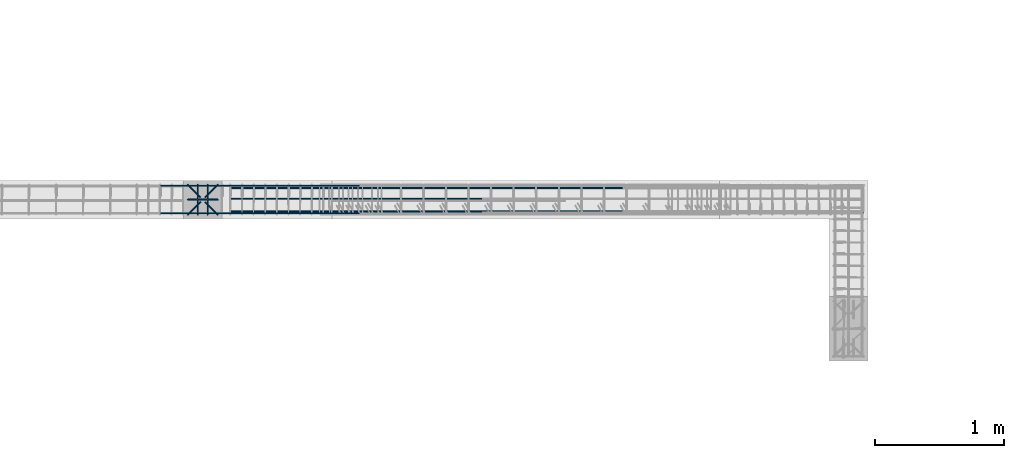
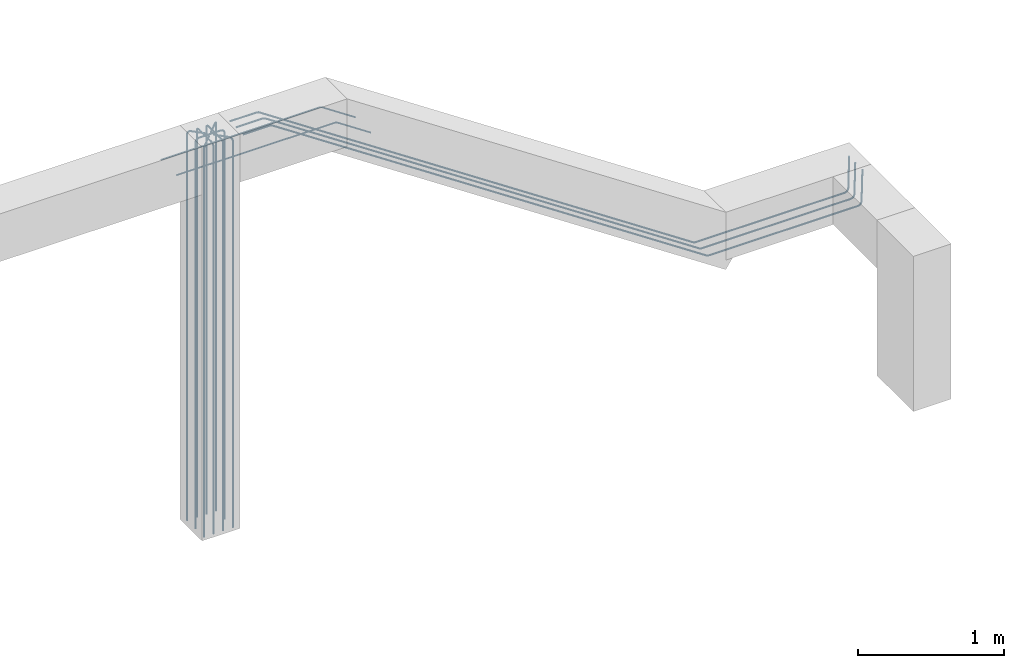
# One storey, part 15 of 24: 3 reinforcing bars.
"""IFC2X3 building model written with IfcOpenShell, lengths in metres."""

from ifc_helpers import new_model, entity, si_unit, direction, frame, origin, place, context, subcontext, project, spatial, shape, source, transform, mapped, element, save


model = new_model("IFC2X3")

# Units and contexts
model_context = context("Model", 3, precision=0.0, world=origin(), true_north=direction((0.0, 1.0)))
plan_context = context("Plan", 3, precision=0.0, world=origin(), true_north=direction((0.0, 1.0)))
body_context = subcontext(model_context, "Body", "Model", "MODEL_VIEW", scale=1.0)
ifc_project = project(units=[si_unit("LENGTHUNIT", "METRE"), si_unit("AREAUNIT", "SQUARE_METRE"), si_unit("VOLUMEUNIT", "CUBIC_METRE"), si_unit("PLANEANGLEUNIT", "RADIAN"), si_unit("THERMODYNAMICTEMPERATUREUNIT", "DEGREE_CELSIUS"), si_unit("FORCEUNIT", "NEWTON"), si_unit("MASSUNIT", "GRAM", prefix="KILO")], contexts=[model_context, plan_context])

# Site, building, storey
placement = place(None, origin())
site = spatial("IfcSite", under=ifc_project, at=placement, Name="Default Site", CompositionType="ELEMENT")
building = spatial("IfcBuilding", under=site, at=placement, Name="Default Building", CompositionType="ELEMENT")
storey_placement = place(placement, frame((0.0, 0.0, 3.3), z_axis=(1.0, 0.0, 0.0), x_axis=(0.0, 0.0, 1.0)))
storey = spatial("IfcBuildingStorey", under=building, at=storey_placement, Name="Piano 2", CompositionType="ELEMENT", Elevation=3.3)

# Reinforcing bars
shared_shape_1 = source(origin(), body_context, None, "AdvancedSweptSolid", [
    entity("IfcSweptDiskSolid", entity("IfcCompositeCurve", [entity("IfcCompositeCurveSegment", "CONTINUOUS", True, entity("IfcPolyline", [entity("IfcCartesianPoint", [0.0, 0.0, 0.0]), entity("IfcCartesianPoint", [0.213478, 0.0, 0.0]), entity("IfcCartesianPoint", [0.22901, 0.0, -0.004703]), entity("IfcCartesianPoint", [0.677956, 0.0, -0.304]), entity("IfcCartesianPoint", [3.670902, 0.0, -2.299297]), entity("IfcCartesianPoint", [3.686434, 0.0, -2.304]), entity("IfcCartesianPoint", [4.869442, 0.0, -2.304]), entity("IfcCartesianPoint", [4.883442, -0.000169, -2.300253]), entity("IfcCartesianPoint", [4.89369, -0.000632, -2.290014]), entity("IfcCartesianPoint", [4.897442, -0.001263, -2.276029]), entity("IfcCartesianPoint", [4.897442, -0.013729, -2.0])]))], False), 0.007, 0.0, 0.0),
])
shared_shape_2 = source(origin(), body_context, None, "MappedRepresentation", [mapped(shared_shape_1, transform((12.210676, 4.909, 3.243176)))])
shared_shape_3 = source(origin(), body_context, None, "AdvancedSweptSolid", [
    entity("IfcSweptDiskSolid", entity("IfcCompositeCurve", [entity("IfcCompositeCurveSegment", "CONTINUOUS", True, entity("IfcPolyline", [entity("IfcCartesianPoint", [0.0, 0.0, 0.0]), entity("IfcCartesianPoint", [0.213478, 0.0, 0.0]), entity("IfcCartesianPoint", [0.22901, 0.0, -0.004703]), entity("IfcCartesianPoint", [0.677956, 0.0, -0.304]), entity("IfcCartesianPoint", [3.670902, 0.0, -2.299297]), entity("IfcCartesianPoint", [3.686434, 0.0, -2.304]), entity("IfcCartesianPoint", [4.869442, 0.0, -2.304]), entity("IfcCartesianPoint", [4.883442, -0.000169, -2.300253]), entity("IfcCartesianPoint", [4.89369, -0.000632, -2.290014]), entity("IfcCartesianPoint", [4.897442, -0.001263, -2.276029]), entity("IfcCartesianPoint", [4.897442, -0.013729, -2.0])]))], False), 0.007, 0.0, 0.0),
])
shared_shape_4 = source(origin(), body_context, None, "MappedRepresentation", [mapped(shared_shape_3, transform((12.210676, 5.007, 3.243176)))])
shared_shape_5 = source(origin(), body_context, None, "AdvancedSweptSolid", [
    entity("IfcSweptDiskSolid", entity("IfcCompositeCurve", [entity("IfcCompositeCurveSegment", "CONTINUOUS", True, entity("IfcPolyline", [entity("IfcCartesianPoint", [0.0, 0.0, 0.0]), entity("IfcCartesianPoint", [0.213478, 0.0, 0.0]), entity("IfcCartesianPoint", [0.22901, 0.0, -0.004703]), entity("IfcCartesianPoint", [0.677956, 0.0, -0.304]), entity("IfcCartesianPoint", [3.670902, 0.0, -2.299297]), entity("IfcCartesianPoint", [3.686434, 0.0, -2.304]), entity("IfcCartesianPoint", [4.869442, 0.0, -2.304]), entity("IfcCartesianPoint", [4.883442, -0.000169, -2.300253]), entity("IfcCartesianPoint", [4.89369, -0.000632, -2.290014]), entity("IfcCartesianPoint", [4.897442, -0.001263, -2.276029]), entity("IfcCartesianPoint", [4.897442, -0.013729, -2.0])]))], False), 0.007, 0.0, 0.0),
])
shared_shape_6 = source(origin(), body_context, None, "MappedRepresentation", [mapped(shared_shape_5, transform((12.210676, 5.091, 3.243176)))])
element("IfcReinforcingBar", 1, at=placement, inside=storey, Name="Arm Inferiore; Trave:10 [Piano:2]", BarLength=17.684066, BarRole="MAIN", BarSurface="TEXTURED", NominalDiameter=0.014, shapes=[
    shape(body_context, None, "MappedRepresentation", [mapped(shared_shape_2, transform((0.0, 0.0, 0.0))), mapped(shared_shape_4, transform((0.0, 0.0, 0.0))), mapped(shared_shape_6, transform((0.0, 0.0, 0.0)))]),
])
shared_shape_7 = source(origin(), body_context, None, "AdvancedSweptSolid", [
    entity("IfcSweptDiskSolid", entity("IfcCompositeCurve", [entity("IfcCompositeCurveSegment", "CONTINUOUS", True, entity("IfcPolyline", [entity("IfcCartesianPoint", [0.0, 0.0, 0.0]), entity("IfcCartesianPoint", [0.326909, 0.0, 0.0]), entity("IfcCartesianPoint", [1.259087, 0.0, 0.0]), entity("IfcCartesianPoint", [1.2724, 0.0, -0.004031]), entity("IfcCartesianPoint", [1.538358, 0.0, -0.181336])]))], False), 0.006, 0.0, 0.0),
])
shared_shape_8 = source(origin(), body_context, None, "MappedRepresentation", [mapped(shared_shape_7, transform((11.673091, 5.106, 3.099)))])
shared_shape_9 = source(origin(), body_context, None, "AdvancedSweptSolid", [
    entity("IfcSweptDiskSolid", entity("IfcCompositeCurve", [entity("IfcCompositeCurveSegment", "CONTINUOUS", True, entity("IfcPolyline", [entity("IfcCartesianPoint", [0.0, 0.0, 0.0]), entity("IfcCartesianPoint", [0.326909, 0.0, 0.0]), entity("IfcCartesianPoint", [1.259087, 0.0, 0.0]), entity("IfcCartesianPoint", [1.2724, 0.0, -0.004031]), entity("IfcCartesianPoint", [1.538358, 0.0, -0.181336])]))], False), 0.006, 0.0, 0.0),
])
shared_shape_10 = source(origin(), body_context, None, "MappedRepresentation", [mapped(shared_shape_9, transform((11.673091, 4.894, 3.099)))])
element("IfcReinforcingBar", 2, at=placement, inside=storey, Name="Arm Generica; Trave:8 [Piano:2]", BarLength=3.185901, BarRole="NOTDEFINED", BarSurface="TEXTURED", NominalDiameter=0.012, shapes=[
    shape(body_context, None, "MappedRepresentation", [mapped(shared_shape_8, transform((0.0, 0.0, 0.0))), mapped(shared_shape_10, transform((0.0, 0.0, 0.0)))]),
])
shared_shape_11 = source(origin(), body_context, None, "AdvancedSweptSolid", [
    entity("IfcSweptDiskSolid", entity("IfcCompositeCurve", [entity("IfcCompositeCurveSegment", "CONTINUOUS", True, entity("IfcPolyline", [entity("IfcCartesianPoint", [0.0, 0.0, 0.0]), entity("IfcCartesianPoint", [0.0, 0.0, 3.237]), entity("IfcCartesianPoint", [0.002653, 0.002653, 3.251]), entity("IfcCartesianPoint", [0.009899, 0.009899, 3.261249]), entity("IfcCartesianPoint", [0.019799, 0.019799, 3.265]), entity("IfcCartesianPoint", [0.098995, 0.098995, 3.265])]))], False), 0.007, 0.0, 0.0),
])
shared_shape_12 = source(origin(), body_context, None, "MappedRepresentation", [mapped(shared_shape_11, transform((11.885, 4.885, 0.0)))])
shared_shape_13 = source(origin(), body_context, None, "AdvancedSweptSolid", [
    entity("IfcSweptDiskSolid", entity("IfcCompositeCurve", [entity("IfcCompositeCurveSegment", "CONTINUOUS", True, entity("IfcPolyline", [entity("IfcCartesianPoint", [0.0, 0.0, 0.0]), entity("IfcCartesianPoint", [0.0, 0.0, 3.237]), entity("IfcCartesianPoint", [-0.002653, 0.002653, 3.251]), entity("IfcCartesianPoint", [-0.009899, 0.009899, 3.261249]), entity("IfcCartesianPoint", [-0.019799, 0.019799, 3.265]), entity("IfcCartesianPoint", [-0.098995, 0.098995, 3.265])]))], False), 0.007, 0.0, 0.0),
])
shared_shape_14 = source(origin(), body_context, None, "MappedRepresentation", [mapped(shared_shape_13, transform((12.115, 4.885, 0.0)))])
shared_shape_15 = source(origin(), body_context, None, "AdvancedSweptSolid", [
    entity("IfcSweptDiskSolid", entity("IfcCompositeCurve", [entity("IfcCompositeCurveSegment", "CONTINUOUS", True, entity("IfcPolyline", [entity("IfcCartesianPoint", [0.0, 0.0, 0.0]), entity("IfcCartesianPoint", [0.0, 0.0, 3.237]), entity("IfcCartesianPoint", [-0.002653, -0.002653, 3.251]), entity("IfcCartesianPoint", [-0.009899, -0.009899, 3.261249]), entity("IfcCartesianPoint", [-0.019799, -0.019799, 3.265]), entity("IfcCartesianPoint", [-0.098995, -0.098995, 3.265])]))], False), 0.007, 0.0, 0.0),
])
shared_shape_16 = source(origin(), body_context, None, "MappedRepresentation", [mapped(shared_shape_15, transform((12.115, 5.115, 0.0)))])
shared_shape_17 = source(origin(), body_context, None, "AdvancedSweptSolid", [
    entity("IfcSweptDiskSolid", entity("IfcCompositeCurve", [entity("IfcCompositeCurveSegment", "CONTINUOUS", True, entity("IfcPolyline", [entity("IfcCartesianPoint", [0.0, 0.0, 0.0]), entity("IfcCartesianPoint", [0.0, 0.0, 3.237]), entity("IfcCartesianPoint", [0.002653, -0.002653, 3.251]), entity("IfcCartesianPoint", [0.009899, -0.009899, 3.261249]), entity("IfcCartesianPoint", [0.019799, -0.019799, 3.265]), entity("IfcCartesianPoint", [0.098995, -0.098995, 3.265])]))], False), 0.007, 0.0, 0.0),
])
shared_shape_18 = source(origin(), body_context, None, "MappedRepresentation", [mapped(shared_shape_17, transform((11.885, 5.115, 0.0)))])
shared_shape_19 = source(origin(), body_context, None, "AdvancedSweptSolid", [
    entity("IfcSweptDiskSolid", entity("IfcCompositeCurve", [entity("IfcCompositeCurveSegment", "CONTINUOUS", True, entity("IfcPolyline", [entity("IfcCartesianPoint", [0.0, 0.0, 0.0]), entity("IfcCartesianPoint", [0.0, 0.0, 3.237]), entity("IfcCartesianPoint", [0.0, 0.003751, 3.251]), entity("IfcCartesianPoint", [0.0, 0.014, 3.261249]), entity("IfcCartesianPoint", [0.0, 0.028, 3.265]), entity("IfcCartesianPoint", [0.0, 0.14, 3.265])]))], False), 0.007, 0.0, 0.0),
])
shared_shape_20 = source(origin(), body_context, None, "MappedRepresentation", [mapped(shared_shape_19, transform((11.961667, 4.885, 0.0)))])
shared_shape_21 = source(origin(), body_context, None, "AdvancedSweptSolid", [
    entity("IfcSweptDiskSolid", entity("IfcCompositeCurve", [entity("IfcCompositeCurveSegment", "CONTINUOUS", True, entity("IfcPolyline", [entity("IfcCartesianPoint", [0.0, 0.0, 0.0]), entity("IfcCartesianPoint", [0.0, 0.0, 3.237]), entity("IfcCartesianPoint", [0.0, 0.003751, 3.251]), entity("IfcCartesianPoint", [0.0, 0.014, 3.261249]), entity("IfcCartesianPoint", [0.0, 0.028, 3.265]), entity("IfcCartesianPoint", [0.0, 0.14, 3.265])]))], False), 0.007, 0.0, 0.0),
])
shared_shape_22 = source(origin(), body_context, None, "MappedRepresentation", [mapped(shared_shape_21, transform((12.038333, 4.885, 0.0)))])
shared_shape_23 = source(origin(), body_context, None, "AdvancedSweptSolid", [
    entity("IfcSweptDiskSolid", entity("IfcCompositeCurve", [entity("IfcCompositeCurveSegment", "CONTINUOUS", True, entity("IfcPolyline", [entity("IfcCartesianPoint", [0.0, 0.0, 0.0]), entity("IfcCartesianPoint", [0.0, 0.0, 3.237]), entity("IfcCartesianPoint", [-0.003751, 0.0, 3.251]), entity("IfcCartesianPoint", [-0.014, 0.0, 3.261249]), entity("IfcCartesianPoint", [-0.028, 0.0, 3.265]), entity("IfcCartesianPoint", [-0.14, 0.0, 3.265])]))], False), 0.007, 0.0, 0.0),
])
shared_shape_24 = source(origin(), body_context, None, "MappedRepresentation", [mapped(shared_shape_23, transform((12.115, 5.0, 0.0)))])
shared_shape_25 = source(origin(), body_context, None, "AdvancedSweptSolid", [
    entity("IfcSweptDiskSolid", entity("IfcCompositeCurve", [entity("IfcCompositeCurveSegment", "CONTINUOUS", True, entity("IfcPolyline", [entity("IfcCartesianPoint", [0.0, 0.0, 0.0]), entity("IfcCartesianPoint", [0.0, 0.0, 3.237]), entity("IfcCartesianPoint", [0.0, -0.003751, 3.251]), entity("IfcCartesianPoint", [0.0, -0.014, 3.261249]), entity("IfcCartesianPoint", [0.0, -0.028, 3.265]), entity("IfcCartesianPoint", [0.0, -0.14, 3.265])]))], False), 0.007, 0.0, 0.0),
])
shared_shape_26 = source(origin(), body_context, None, "MappedRepresentation", [mapped(shared_shape_25, transform((12.038333, 5.115, 0.0)))])
shared_shape_27 = source(origin(), body_context, None, "AdvancedSweptSolid", [
    entity("IfcSweptDiskSolid", entity("IfcCompositeCurve", [entity("IfcCompositeCurveSegment", "CONTINUOUS", True, entity("IfcPolyline", [entity("IfcCartesianPoint", [0.0, 0.0, 0.0]), entity("IfcCartesianPoint", [0.0, 0.0, 3.237]), entity("IfcCartesianPoint", [0.0, -0.003751, 3.251]), entity("IfcCartesianPoint", [0.0, -0.014, 3.261249]), entity("IfcCartesianPoint", [0.0, -0.028, 3.265]), entity("IfcCartesianPoint", [0.0, -0.14, 3.265])]))], False), 0.007, 0.0, 0.0),
])
shared_shape_28 = source(origin(), body_context, None, "MappedRepresentation", [mapped(shared_shape_27, transform((11.961667, 5.115, 0.0)))])
shared_shape_29 = source(origin(), body_context, None, "AdvancedSweptSolid", [
    entity("IfcSweptDiskSolid", entity("IfcCompositeCurve", [entity("IfcCompositeCurveSegment", "CONTINUOUS", True, entity("IfcPolyline", [entity("IfcCartesianPoint", [0.0, 0.0, 0.0]), entity("IfcCartesianPoint", [0.0, 0.0, 3.237]), entity("IfcCartesianPoint", [0.003751, 0.0, 3.251]), entity("IfcCartesianPoint", [0.014, 0.0, 3.261249]), entity("IfcCartesianPoint", [0.028, 0.0, 3.265]), entity("IfcCartesianPoint", [0.14, 0.0, 3.265])]))], False), 0.007, 0.0, 0.0),
])
shared_shape_30 = source(origin(), body_context, None, "MappedRepresentation", [mapped(shared_shape_29, transform((11.885, 5.0, 0.0)))])
element("IfcReinforcingBar", 3, at=placement, inside=storey, Name="Arm Principale; Pilastro:16 [Piano:2]", BarLength=34.05, BarRole="MAIN", BarSurface="TEXTURED", NominalDiameter=0.014, shapes=[
    shape(body_context, None, "MappedRepresentation", [mapped(shared_shape_12, transform((0.0, 0.0, 0.0))), mapped(shared_shape_14, transform((0.0, 0.0, 0.0))), mapped(shared_shape_16, transform((0.0, 0.0, 0.0))), mapped(shared_shape_18, transform((0.0, 0.0, 0.0))), mapped(shared_shape_20, transform((0.0, 0.0, 0.0))), mapped(shared_shape_22, transform((0.0, 0.0, 0.0))), mapped(shared_shape_24, transform((0.0, 0.0, 0.0))), mapped(shared_shape_26, transform((0.0, 0.0, 0.0))), mapped(shared_shape_28, transform((0.0, 0.0, 0.0))), mapped(shared_shape_30, transform((0.0, 0.0, 0.0)))]),
])

save(model, "model.ifc")
